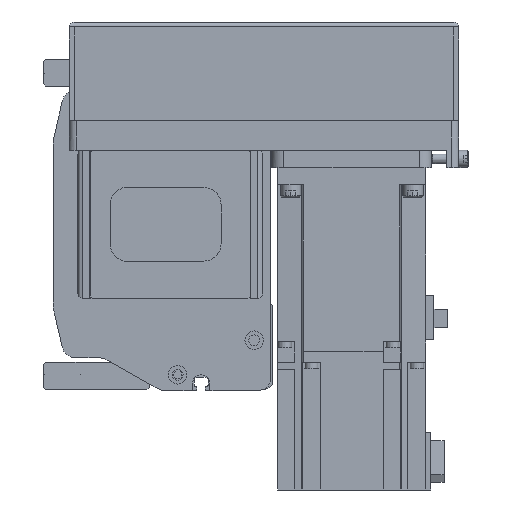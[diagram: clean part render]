
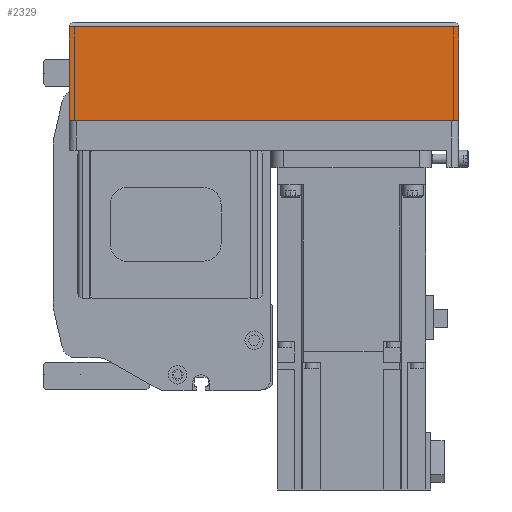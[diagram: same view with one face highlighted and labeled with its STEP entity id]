
A CAD part, left-side view. The second image highlights one B-rep face of the part: STEP entity #2329.
In plain terms, the highlighted planar face has unit normal (-1, 0, 0) as drawn and (0, -1, 0) by its records, which use the part's own axes.
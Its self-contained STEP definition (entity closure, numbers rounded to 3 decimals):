
#2329 = ADVANCED_FACE( '', ( #5256 ), #5257, .T. );
#5256 = FACE_OUTER_BOUND( '', #8760, .T. );
#5257 = PLANE( '', #8761 );
#8760 = EDGE_LOOP( '', ( #15391, #15392, #15393, #15394 ) );
#8761 = AXIS2_PLACEMENT_3D( '', #15395, #15396, #15397 );
#15391 = ORIENTED_EDGE( '', *, *, #19765, .F. );
#15392 = ORIENTED_EDGE( '', *, *, #22299, .F. );
#15393 = ORIENTED_EDGE( '', *, *, #21462, .T. );
#15394 = ORIENTED_EDGE( '', *, *, #22300, .T. );
#15395 = CARTESIAN_POINT( '', ( -158., -39., -12.1 ) );
#15396 = DIRECTION( '', ( 0., -1., 0. ) );
#15397 = DIRECTION( '', ( 0., 0., -1. ) );
#19765 = EDGE_CURVE( '', #23410, #23412, #23413, .T. );
#21462 = EDGE_CURVE( '', #26274, #24654, #26277, .T. );
#22299 = EDGE_CURVE( '', #26274, #23410, #27492, .T. );
#22300 = EDGE_CURVE( '', #24654, #23412, #27493, .T. );
#23410 = VERTEX_POINT( '', #28842 );
#23412 = VERTEX_POINT( '', #28845 );
#23413 = LINE( '', #28846, #28847 );
#24654 = VERTEX_POINT( '', #31000 );
#26274 = VERTEX_POINT( '', #33270 );
#26277 = LINE( '', #33275, #33276 );
#27492 = LINE( '', #35024, #35025 );
#27493 = LINE( '', #35026, #35027 );
#28842 = CARTESIAN_POINT( '', ( 0., -39., -12.1 ) );
#28845 = CARTESIAN_POINT( '', ( 0., -39., -50. ) );
#28846 = CARTESIAN_POINT( '', ( 0., -39., -12.1 ) );
#28847 = VECTOR( '', #36987, 1000. );
#31000 = CARTESIAN_POINT( '', ( -158., -39., -50. ) );
#33270 = CARTESIAN_POINT( '', ( -158., -39., -12.1 ) );
#33275 = CARTESIAN_POINT( '', ( -158., -39., -12.1 ) );
#33276 = VECTOR( '', #39165, 1000. );
#35024 = CARTESIAN_POINT( '', ( -158., -39., -12.1 ) );
#35025 = VECTOR( '', #40212, 1000. );
#35026 = CARTESIAN_POINT( '', ( -158., -39., -50. ) );
#35027 = VECTOR( '', #40213, 1000. );
#36987 = DIRECTION( '', ( 0., 0., -1. ) );
#39165 = DIRECTION( '', ( 0., 0., -1. ) );
#40212 = DIRECTION( '', ( 1., 0., 0. ) );
#40213 = DIRECTION( '', ( 1., 0., 0. ) );
